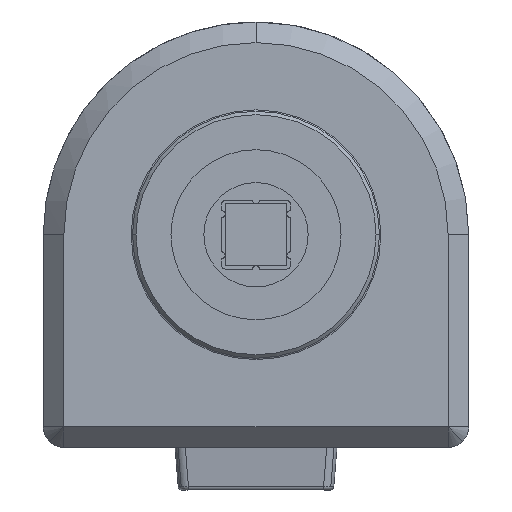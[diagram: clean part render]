
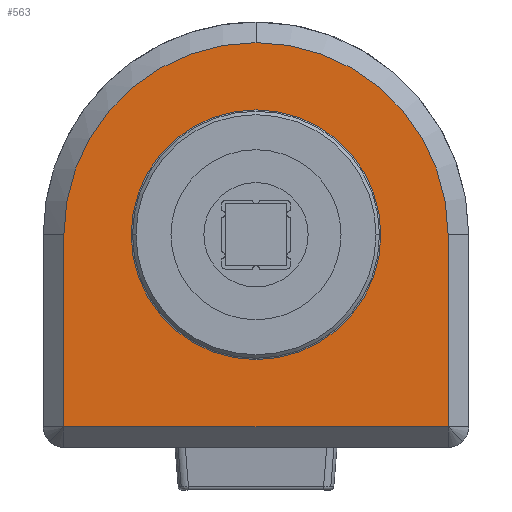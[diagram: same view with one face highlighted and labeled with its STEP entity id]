
A CAD part, front view. The second image highlights one B-rep face of the part: STEP entity #563.
In plain terms, the highlighted planar face has unit normal (0, -1, 0).
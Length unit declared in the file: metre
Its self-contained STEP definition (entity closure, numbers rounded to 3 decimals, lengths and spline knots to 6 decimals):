
#563=ADVANCED_FACE('0:26616',(#1540,#1541),#1542,.T.);
#1540=FACE_OUTER_BOUND('',#3181,.T.);
#1541=FACE_BOUND('',#3182,.T.);
#1542=PLANE('',#3183);
#3181=EDGE_LOOP('',(#6997,#6998,#6999,#7000,#7001));
#3182=EDGE_LOOP('',(#7002,#7003));
#3183=AXIS2_PLACEMENT_3D('',#7004,#7005,#7006);
#6997=ORIENTED_EDGE('',*,*,#8511,.F.);
#6998=ORIENTED_EDGE('',*,*,#7756,.F.);
#6999=ORIENTED_EDGE('',*,*,#7916,.F.);
#7000=ORIENTED_EDGE('',*,*,#8508,.F.);
#7001=ORIENTED_EDGE('',*,*,#8510,.F.);
#7002=ORIENTED_EDGE('',*,*,#7806,.F.);
#7003=ORIENTED_EDGE('',*,*,#7886,.F.);
#7004=CARTESIAN_POINT('',(0.0,-0.01515,0.037201));
#7005=DIRECTION('',(0.0,-1.0,0.));
#7006=DIRECTION('',(1.0,0.0,0.0));
#7756=EDGE_CURVE('0:26967',#9567,#9570,#9571,.T.);
#7806=EDGE_CURVE('0:26832',#9660,#9663,#9664,.T.);
#7886=EDGE_CURVE('0:26832',#9663,#9660,#9805,.T.);
#7916=EDGE_CURVE('0:26967',#9845,#9567,#9847,.T.);
#8508=EDGE_CURVE('0:29070',#9575,#9845,#10673,.T.);
#8510=EDGE_CURVE('0:29076',#9580,#9575,#10675,.T.);
#8511=EDGE_CURVE('0:29079',#9570,#9580,#10676,.T.);
#9567=VERTEX_POINT('',#11941);
#9570=VERTEX_POINT('',#11945);
#9571=CIRCLE('',#11946,0.028);
#9575=VERTEX_POINT('',#11951);
#9580=VERTEX_POINT('',#11958);
#9660=VERTEX_POINT('',#12058);
#9663=VERTEX_POINT('',#12061);
#9664=CIRCLE('',#12062,0.0182);
#9805=CIRCLE('',#12235,0.0182);
#9845=VERTEX_POINT('',#12286);
#9847=CIRCLE('',#12289,0.028);
#10673=LINE('',#13514,#13515);
#10675=LINE('',#13518,#13519);
#10676=LINE('',#13520,#13521);
#11941=CARTESIAN_POINT('',(0.,-0.01515,0.065201));
#11945=CARTESIAN_POINT('',(0.028,-0.01515,0.037201));
#11946=AXIS2_PLACEMENT_3D('',#14609,#14610,#14611);
#11951=CARTESIAN_POINT('',(-0.028,-0.01515,0.009201));
#11958=CARTESIAN_POINT('',(0.028,-0.01515,0.009201));
#12058=CARTESIAN_POINT('',(0.0182,-0.01515,0.037201));
#12061=CARTESIAN_POINT('',(-0.0182,-0.01515,0.037201));
#12062=AXIS2_PLACEMENT_3D('',#14713,#14714,#14715);
#12235=AXIS2_PLACEMENT_3D('',#14889,#14890,#14891);
#12286=CARTESIAN_POINT('',(-0.028,-0.01515,0.037201));
#12289=AXIS2_PLACEMENT_3D('',#14955,#14956,#14957);
#13514=CARTESIAN_POINT('',(-0.028,-0.01515,0.037201));
#13515=VECTOR('',#15999,1.0);
#13518=CARTESIAN_POINT('',(0.0,-0.01515,0.009201));
#13519=VECTOR('',#16001,1.0);
#13520=CARTESIAN_POINT('',(0.028,-0.01515,0.037201));
#13521=VECTOR('',#16002,1.0);
#14609=CARTESIAN_POINT('',(0.0,-0.01515,0.037201));
#14610=DIRECTION('',(0.0,1.0,0.));
#14611=DIRECTION('',(0.0,0.,1.0));
#14713=CARTESIAN_POINT('',(0.0,-0.01515,0.037201));
#14714=DIRECTION('',(0.0,-1.0,0.));
#14715=DIRECTION('',(-1.0,0.,0.));
#14889=CARTESIAN_POINT('',(0.0,-0.01515,0.037201));
#14890=DIRECTION('',(0.0,-1.0,0.));
#14891=DIRECTION('',(-1.0,0.,0.));
#14955=CARTESIAN_POINT('',(0.0,-0.01515,0.037201));
#14956=DIRECTION('',(0.0,1.0,0.));
#14957=DIRECTION('',(0.0,0.,1.0));
#15999=DIRECTION('',(0.0,0.,1.0));
#16001=DIRECTION('',(-1.0,0.0,0.0));
#16002=DIRECTION('',(0.0,0.,-1.0));
